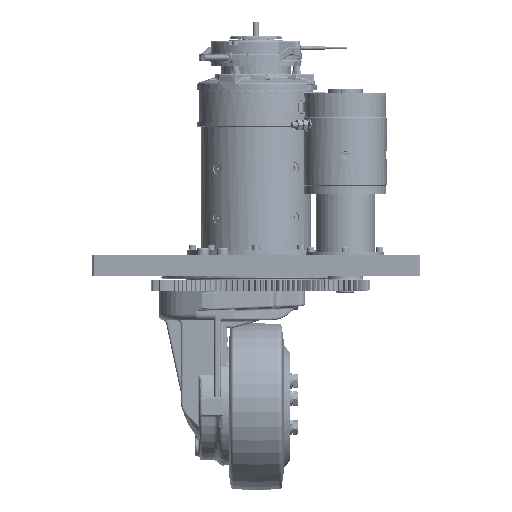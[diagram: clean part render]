
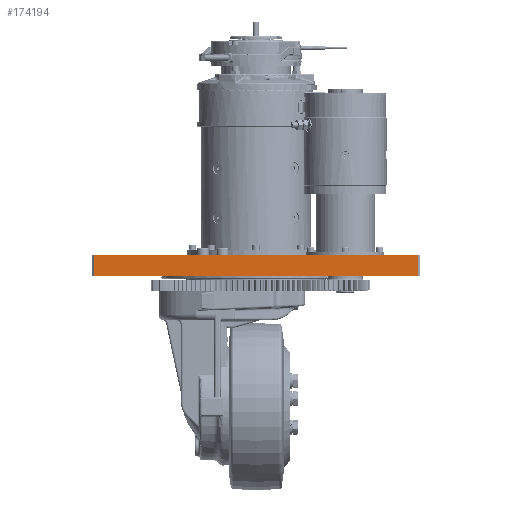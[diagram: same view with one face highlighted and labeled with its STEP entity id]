
A CAD part, left-side view. The second image highlights one B-rep face of the part: STEP entity #174194.
In plain terms, the highlighted planar face has unit normal (-1, 0, 0).
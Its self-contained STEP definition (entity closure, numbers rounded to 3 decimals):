
#8365=PLANE('',#188432);
#17819=FACE_OUTER_BOUND('',#27699,.T.);
#27699=EDGE_LOOP('',(#137634,#137635,#137636,#137637));
#38294=LINE('',#275687,#52433);
#40941=LINE('',#284365,#55080);
#40946=LINE('',#284376,#55085);
#40947=LINE('',#284377,#55086);
#52433=VECTOR('',#216750,10.);
#55080=VECTOR('',#224107,10.);
#55085=VECTOR('',#224118,10.);
#55086=VECTOR('',#224119,10.);
#75577=VERTEX_POINT('',#275684);
#75578=VERTEX_POINT('',#275686);
#78322=VERTEX_POINT('',#284363);
#78325=VERTEX_POINT('',#284375);
#95547=EDGE_CURVE('',#75578,#75577,#38294,.T.);
#99366=EDGE_CURVE('',#78322,#75577,#40941,.T.);
#99371=EDGE_CURVE('',#75578,#78325,#40946,.T.);
#99372=EDGE_CURVE('',#78322,#78325,#40947,.T.);
#137634=ORIENTED_EDGE('',*,*,#99371,.F.);
#137635=ORIENTED_EDGE('',*,*,#95547,.T.);
#137636=ORIENTED_EDGE('',*,*,#99366,.F.);
#137637=ORIENTED_EDGE('',*,*,#99372,.T.);
#174194=ADVANCED_FACE('',(#17819),#8365,.T.);
#188432=AXIS2_PLACEMENT_3D('',#284374,#224116,#224117);
#216750=DIRECTION('',(0.,1.,0.));
#224107=DIRECTION('',(0.,0.,1.));
#224116=DIRECTION('center_axis',(-1.,0.,0.));
#224117=DIRECTION('ref_axis',(0.,0.,
-1.));
#224118=DIRECTION('',(0.,0.,-1.));
#224119=DIRECTION('',(0.,-1.,0.));
#275684=CARTESIAN_POINT('',(-185.833,207.944,49.998));
#275686=CARTESIAN_POINT('',(-185.833,-238.056,49.998));
#275687=CARTESIAN_POINT('',(-185.833,-240.056,49.998));
#284363=CARTESIAN_POINT('',(-185.833,207.944,21.498));
#284365=CARTESIAN_POINT('',(-185.833,207.944,20.498));
#284374=CARTESIAN_POINT('Origin',(-185.833,-240.056,20.498));
#284375=CARTESIAN_POINT('',(-185.833,-238.056,21.498));
#284376=CARTESIAN_POINT('',(-185.833,-238.056,20.498));
#284377=CARTESIAN_POINT('',(-185.833,-127.556,21.498));
